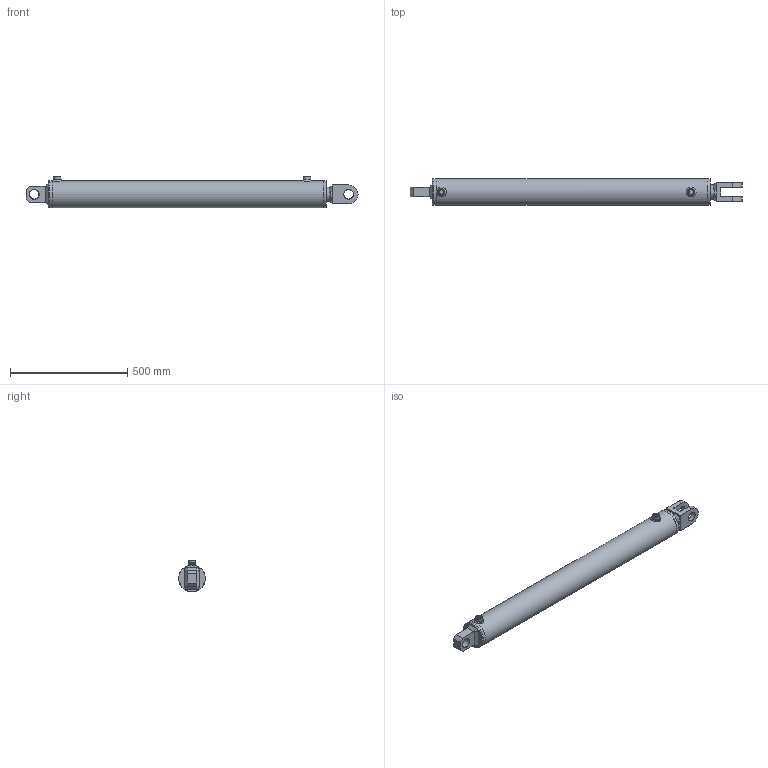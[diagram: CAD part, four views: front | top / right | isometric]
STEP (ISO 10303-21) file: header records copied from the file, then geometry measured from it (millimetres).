
FILE_DESCRIPTION( ( 'Unknown' ), '1' );
FILE_NAME( 'E:/LIBRERIA_3d/CILINDRI/HM5/HM56601000.stp', 'Unknown', ( 'Unknown' ), ( 'Unknown' ), 'PSStep 17.0.49', 'Unknown', ' ' );
FILE_SCHEMA( ( 'AUTOMOTIVE_DESIGN { 1 0 10303 214 1 1 1 1 }' ) );
Length unit declared in the file: millimetre
Products named in the file (35): CT00100033; STL6701000-oa7; Saldatura d'angolo 1-oa5; FTM6701000-oa6; CBSC220800; CG11510060; HM06601000; CF00100115; Saldatura con preparazione 1-oa3; Saldatura d'angolo 1-oa4; CBS0800000; CDA0003320; APG0800000; SBL6061000; Assem1; CSCS004010; CFS0000040; COF4000000; Saldatura d'angolo 1-oa0; Saldatura con preparazione 1-oa1; Saldatura d'angolo 2-oa2
Assembly tree (21 placements, depth 4):
  Saldatura d'angolo 1-oa5
  Saldatura d'angolo 1-oa5
  Saldatura d'angolo 1-oa4
  Saldatura d'angolo 1-oa4
  Assem1
    CSCS004010
    CFS0000040
    COF4000000
    Saldatura con preparazione 1-oa1
    Saldatura con preparazione 1-oa1
    HM06601000
      CF00100115
      Saldatura con preparazione 1-oa3
      Saldatura con preparazione 1-oa3
      CBS0800000
      CDA0003320
      APG0800000  x2
      SBL6061000
      CT00100033
        CT00100033
      CG11510060
        CG11510060
      STL6701000-oa7
        FTM6701000-oa6
        CBSC220800
Bounding box: 1415 x 115 x 135 mm (x, y, z)
Volume: 7643481.1 mm3; surface area: 1308166.6 mm2
Topology: 31 solids, 31 shells, 317 faces, 660 edges, 408 vertices
Faces by surface type: plane 116, cylinder 77, cone 54, torus 36, bspline 34
Full cylindrical faces by diameter (mm): 4.25 x3, 8 x2, 12 x1, 18.631 x2, 19.5 x2, 20.95 x2, 26 x2, 30 x2, 32.4 x1, 33 x5, 39.2 x1, 40.25 x3, 50 x1, 60 x7, 63 x3, 68.6 x1, 72 x1, 75 x1, 91.5 x1, 93.14 x2, 98.05 x2, 99.9 x1, 100 x1, 100.3 x1, 100.5 x1, 100.6 x1, 101 x1, 102 x3, 102.835 x1, 105 x1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
Entity records: 13124 total; most frequent: CARTESIAN_POINT 4684, DIRECTION 1226, ORIENTED_EDGE 900, AXIS2_PLACEMENT_3D 542, EDGE_LOOP 503, EDGE_CURVE 450, FACE_OUTER_BOUND 410, VERTEX_POINT 356
